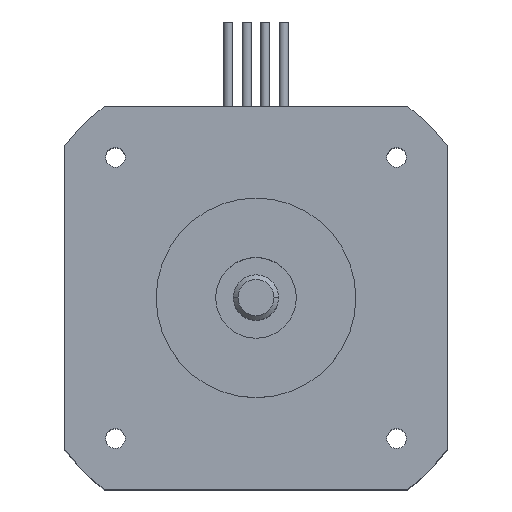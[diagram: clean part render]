
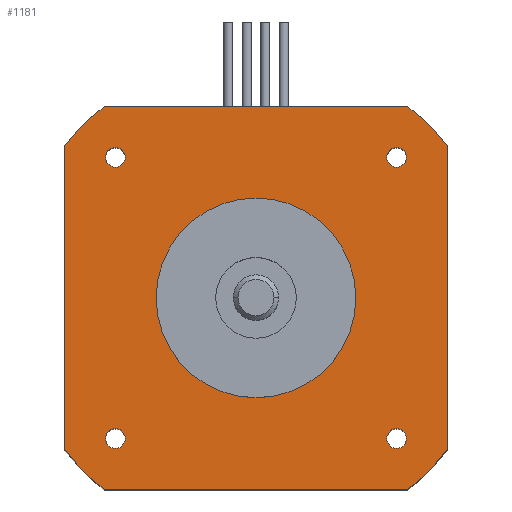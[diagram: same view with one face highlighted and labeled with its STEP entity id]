
A CAD part, top view. The second image highlights one B-rep face of the part: STEP entity #1181.
In plain terms, the highlighted planar face has unit normal (0, 0, 1).
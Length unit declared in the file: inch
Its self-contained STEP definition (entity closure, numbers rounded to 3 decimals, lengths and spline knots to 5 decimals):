
#99=CARTESIAN_POINT('',(-0.653,0.61,1.89));
#100=VERTEX_POINT('',#99);
#116=CARTESIAN_POINT('',(-0.567,0.61,1.89));
#117=VERTEX_POINT('',#116);
#124=CARTESIAN_POINT('',(-0.61,0.61,1.89));
#125=DIRECTION('',(0.0,0.0,-1.0));
#126=DIRECTION('',(-1.0,0.0,0.0));
#127=AXIS2_PLACEMENT_3D('',#124,#125,#126);
#128=CIRCLE('',#127,0.043);
#129=EDGE_CURVE('',#100,#117,#128,.T.);
#141=CARTESIAN_POINT('',(0.61,0.653,1.89));
#142=VERTEX_POINT('',#141);
#158=CARTESIAN_POINT('',(0.61,0.567,1.89));
#159=VERTEX_POINT('',#158);
#166=CARTESIAN_POINT('',(0.61,0.61,1.89));
#167=DIRECTION('',(0.0,0.0,-1.0));
#168=DIRECTION('',(0.0,1.0,0.0));
#169=AXIS2_PLACEMENT_3D('',#166,#167,#168);
#170=CIRCLE('',#169,0.043);
#171=EDGE_CURVE('',#142,#159,#170,.T.);
#183=CARTESIAN_POINT('',(-0.61,-0.653,1.89));
#184=VERTEX_POINT('',#183);
#200=CARTESIAN_POINT('',(-0.61,-0.567,1.89));
#201=VERTEX_POINT('',#200);
#208=CARTESIAN_POINT('',(-0.61,-0.61,1.89));
#209=DIRECTION('',(0.0,0.0,-1.0));
#210=DIRECTION('',(0.0,-1.0,0.0));
#211=AXIS2_PLACEMENT_3D('',#208,#209,#210);
#212=CIRCLE('',#211,0.043);
#213=EDGE_CURVE('',#184,#201,#212,.T.);
#225=CARTESIAN_POINT('',(0.653,-0.61,1.89));
#226=VERTEX_POINT('',#225);
#242=CARTESIAN_POINT('',(0.567,-0.61,1.89));
#243=VERTEX_POINT('',#242);
#250=CARTESIAN_POINT('',(0.61,-0.61,1.89));
#251=DIRECTION('',(0.0,0.0,-1.0));
#252=DIRECTION('',(1.0,0.0,0.0));
#253=AXIS2_PLACEMENT_3D('',#250,#251,#252);
#254=CIRCLE('',#253,0.043);
#255=EDGE_CURVE('',#226,#243,#254,.T.);
#265=CARTESIAN_POINT('',(-0.433,0.,1.89));
#266=VERTEX_POINT('',#265);
#275=CARTESIAN_POINT('',(0.433,0.,1.89));
#276=VERTEX_POINT('',#275);
#277=CARTESIAN_POINT('',(0.0,0.0,1.89));
#278=DIRECTION('',(0.0,0.0,-1.0));
#279=DIRECTION('',(-1.0,0.0,0.0));
#280=AXIS2_PLACEMENT_3D('',#277,#278,#279);
#281=CIRCLE('',#280,0.433);
#282=EDGE_CURVE('',#276,#266,#281,.T.);
#779=CARTESIAN_POINT('',(-0.83,0.65932,1.89));
#780=VERTEX_POINT('',#779);
#789=CARTESIAN_POINT('',(-0.65932,0.83,1.89));
#790=VERTEX_POINT('',#789);
#791=CARTESIAN_POINT('',(0.0,0.0,1.89));
#792=DIRECTION('',(0.0,0.0,1.0));
#793=DIRECTION('',(1.0,0.0,0.0));
#794=AXIS2_PLACEMENT_3D('',#791,#792,#793);
#795=CIRCLE('',#794,1.06);
#796=EDGE_CURVE('',#790,#780,#795,.T.);
#821=CARTESIAN_POINT('',(0.65932,0.83,1.89));
#822=VERTEX_POINT('',#821);
#831=CARTESIAN_POINT('',(0.83,0.65932,1.89));
#832=VERTEX_POINT('',#831);
#833=CARTESIAN_POINT('',(0.0,0.0,1.89));
#834=DIRECTION('',(0.0,0.0,1.0));
#835=DIRECTION('',(1.0,0.0,0.0));
#836=AXIS2_PLACEMENT_3D('',#833,#834,#835);
#837=CIRCLE('',#836,1.06);
#838=EDGE_CURVE('',#832,#822,#837,.T.);
#863=CARTESIAN_POINT('',(0.83,-0.65932,1.89));
#864=VERTEX_POINT('',#863);
#873=CARTESIAN_POINT('',(0.65932,-0.83,1.89));
#874=VERTEX_POINT('',#873);
#875=CARTESIAN_POINT('',(0.0,0.0,1.89));
#876=DIRECTION('',(0.0,0.0,1.0));
#877=DIRECTION('',(1.0,0.0,0.0));
#878=AXIS2_PLACEMENT_3D('',#875,#876,#877);
#879=CIRCLE('',#878,1.06);
#880=EDGE_CURVE('',#874,#864,#879,.T.);
#905=CARTESIAN_POINT('',(-0.65932,-0.83,1.89));
#906=VERTEX_POINT('',#905);
#915=CARTESIAN_POINT('',(-0.83,-0.65932,1.89));
#916=VERTEX_POINT('',#915);
#917=CARTESIAN_POINT('',(0.0,0.0,1.89));
#918=DIRECTION('',(0.0,0.0,1.0));
#919=DIRECTION('',(1.0,0.0,0.0));
#920=AXIS2_PLACEMENT_3D('',#917,#918,#919);
#921=CIRCLE('',#920,1.06);
#922=EDGE_CURVE('',#916,#906,#921,.T.);
#1034=CARTESIAN_POINT('',(-0.83,0.65932,1.89));
#1035=DIRECTION('',(0.0,-1.0,0.0));
#1036=VECTOR('',#1035,1.31864);
#1037=LINE('',#1034,#1036);
#1038=EDGE_CURVE('',#780,#916,#1037,.T.);
#1083=CARTESIAN_POINT('',(0.0,0.0,1.89));
#1084=DIRECTION('',(0.0,0.0,-1.0));
#1085=DIRECTION('',(-1.0,0.0,0.0));
#1086=AXIS2_PLACEMENT_3D('',#1083,#1084,#1085);
#1087=CIRCLE('',#1086,0.433);
#1088=EDGE_CURVE('',#266,#276,#1087,.T.);
#1107=CARTESIAN_POINT('',(0.0,0.0,1.89));
#1108=DIRECTION('',(0.0,0.0,1.0));
#1109=DIRECTION('',(1.0,0.0,0.0));
#1110=AXIS2_PLACEMENT_3D('',#1107,#1108,#1109);
#1111=PLANE('',#1110);
#1112=ORIENTED_EDGE('',*,*,#922,.T.);
#1113=CARTESIAN_POINT('',(-0.65932,-0.83,1.89));
#1114=DIRECTION('',(1.0,0.0,0.0));
#1115=VECTOR('',#1114,1.31864);
#1116=LINE('',#1113,#1115);
#1117=EDGE_CURVE('',#906,#874,#1116,.T.);
#1118=ORIENTED_EDGE('',*,*,#1117,.T.);
#1119=ORIENTED_EDGE('',*,*,#880,.T.);
#1120=CARTESIAN_POINT('',(0.83,-0.65932,1.89));
#1121=DIRECTION('',(0.0,1.0,0.0));
#1122=VECTOR('',#1121,1.31864);
#1123=LINE('',#1120,#1122);
#1124=EDGE_CURVE('',#864,#832,#1123,.T.);
#1125=ORIENTED_EDGE('',*,*,#1124,.T.);
#1126=ORIENTED_EDGE('',*,*,#838,.T.);
#1127=CARTESIAN_POINT('',(0.65932,0.83,1.89));
#1128=DIRECTION('',(-1.0,0.0,0.0));
#1129=VECTOR('',#1128,1.31864);
#1130=LINE('',#1127,#1129);
#1131=EDGE_CURVE('',#822,#790,#1130,.T.);
#1132=ORIENTED_EDGE('',*,*,#1131,.T.);
#1133=ORIENTED_EDGE('',*,*,#796,.T.);
#1134=ORIENTED_EDGE('',*,*,#1038,.T.);
#1135=EDGE_LOOP('',(#1112,#1118,#1119,#1125,#1126,#1132,#1133,#1134));
#1136=FACE_OUTER_BOUND('',#1135,.T.);
#1137=CARTESIAN_POINT('',(-0.61,0.61,1.89));
#1138=DIRECTION('',(0.0,0.0,-1.0));
#1139=DIRECTION('',(-1.0,0.0,0.0));
#1140=AXIS2_PLACEMENT_3D('',#1137,#1138,#1139);
#1141=CIRCLE('',#1140,0.043);
#1142=EDGE_CURVE('',#117,#100,#1141,.T.);
#1143=ORIENTED_EDGE('',*,*,#1142,.T.);
#1144=ORIENTED_EDGE('',*,*,#129,.T.);
#1145=EDGE_LOOP('',(#1143,#1144));
#1146=FACE_BOUND('',#1145,.T.);
#1147=CARTESIAN_POINT('',(0.61,0.61,1.89));
#1148=DIRECTION('',(0.0,0.0,-1.0));
#1149=DIRECTION('',(0.0,1.0,0.0));
#1150=AXIS2_PLACEMENT_3D('',#1147,#1148,#1149);
#1151=CIRCLE('',#1150,0.043);
#1152=EDGE_CURVE('',#159,#142,#1151,.T.);
#1153=ORIENTED_EDGE('',*,*,#1152,.T.);
#1154=ORIENTED_EDGE('',*,*,#171,.T.);
#1155=EDGE_LOOP('',(#1153,#1154));
#1156=FACE_BOUND('',#1155,.T.);
#1157=CARTESIAN_POINT('',(-0.61,-0.61,1.89));
#1158=DIRECTION('',(0.0,0.0,-1.0));
#1159=DIRECTION('',(0.0,-1.0,0.0));
#1160=AXIS2_PLACEMENT_3D('',#1157,#1158,#1159);
#1161=CIRCLE('',#1160,0.043);
#1162=EDGE_CURVE('',#201,#184,#1161,.T.);
#1163=ORIENTED_EDGE('',*,*,#1162,.T.);
#1164=ORIENTED_EDGE('',*,*,#213,.T.);
#1165=EDGE_LOOP('',(#1163,#1164));
#1166=FACE_BOUND('',#1165,.T.);
#1167=CARTESIAN_POINT('',(0.61,-0.61,1.89));
#1168=DIRECTION('',(0.0,0.0,-1.0));
#1169=DIRECTION('',(1.0,0.0,0.0));
#1170=AXIS2_PLACEMENT_3D('',#1167,#1168,#1169);
#1171=CIRCLE('',#1170,0.043);
#1172=EDGE_CURVE('',#243,#226,#1171,.T.);
#1173=ORIENTED_EDGE('',*,*,#1172,.T.);
#1174=ORIENTED_EDGE('',*,*,#255,.T.);
#1175=EDGE_LOOP('',(#1173,#1174));
#1176=FACE_BOUND('',#1175,.T.);
#1177=ORIENTED_EDGE('',*,*,#282,.T.);
#1178=ORIENTED_EDGE('',*,*,#1088,.T.);
#1179=EDGE_LOOP('',(#1177,#1178));
#1180=FACE_BOUND('',#1179,.T.);
#1181=ADVANCED_FACE('',(#1136,#1146,#1156,#1166,#1176,#1180),#1111,.T.);
